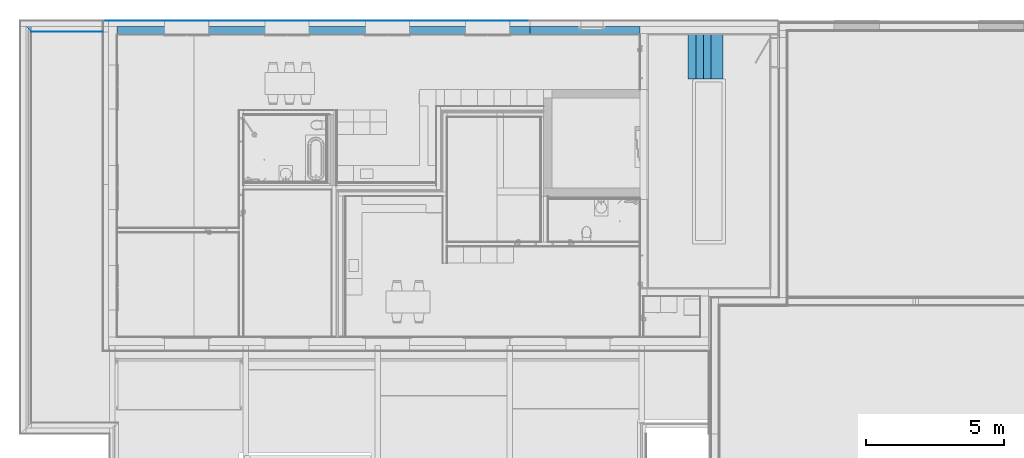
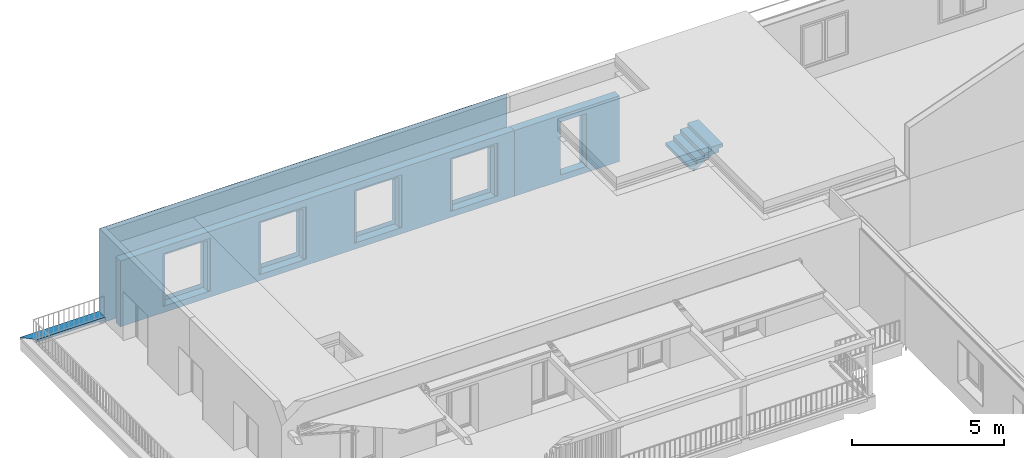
# One storey, part 18 of 36: 6 building element parts, 9 openings, 5 elements without a shape of their own.
"""IFC4 building model written with IfcOpenShell, lengths in millimetres."""

from ifc_helpers import new_model, entity, si_unit, converted_unit, derived_unit, direction, frame, origin_with_axes, place, context, subcontext, project, spatial, polygons, material, type_object, element, aggregate, save


model = new_model("IFC4")

# Units and contexts
model_context = context("Model", 3, precision=0.01, world=origin_with_axes(), true_north=direction((0.0, 1.0)))
body_context = subcontext(model_context, "Body", "Model", "MODEL_VIEW")
ifc_project = project(units=[si_unit("LENGTHUNIT", "METRE", prefix="MILLI"), si_unit("AREAUNIT", "SQUARE_METRE"), si_unit("VOLUMEUNIT", "CUBIC_METRE"), converted_unit("PLANEANGLEUNIT", "DEGREE", entity("IfcPlaneAngleMeasure", 0.0174532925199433), si_unit("PLANEANGLEUNIT", "RADIAN"), dimensions=[0, 0, 0, 0, 0, 0, 0]), converted_unit("TIMEUNIT", "Year", entity("IfcTimeMeasure", 31557600.0), si_unit("TIMEUNIT", "SECOND"), dimensions=[0, 0, 1, 0, 0, 0, 0]), si_unit("MASSUNIT", "GRAM", prefix="KILO"), si_unit("THERMODYNAMICTEMPERATUREUNIT", "DEGREE_CELSIUS"), si_unit("LUMINOUSINTENSITYUNIT", "LUMEN"), si_unit("ENERGYUNIT", "JOULE", prefix="MEGA"), derived_unit("THERMALCONDUCTANCEUNIT", [(si_unit("POWERUNIT", "WATT"), 1), (si_unit("LENGTHUNIT", "METRE"), -1), (si_unit("THERMODYNAMICTEMPERATUREUNIT", "KELVIN"), -1)]), derived_unit("SPECIFICHEATCAPACITYUNIT", [(si_unit("ENERGYUNIT", "JOULE"), 1), (si_unit("MASSUNIT", "GRAM", prefix="KILO"), -1), (si_unit("THERMODYNAMICTEMPERATUREUNIT", "KELVIN"), -1)]), derived_unit("MASSDENSITYUNIT", [(si_unit("MASSUNIT", "GRAM", prefix="KILO"), 1), (si_unit("VOLUMEUNIT", "CUBIC_METRE"), -1)])], contexts=[model_context])

# Site, building, storey
site_placement = place(None, origin_with_axes())
site = spatial("IfcSite", under=ifc_project, at=site_placement, Name="Gelände", CompositionType="ELEMENT")
building_placement = place(site_placement, origin_with_axes())
building = spatial("IfcBuilding", under=site, at=building_placement, Name="Gebäude", CompositionType="ELEMENT")
storey_placement = place(building_placement, frame((0.0, 0.0, 8700.0), z_axis=(0.0, 0.0, 1.0), x_axis=(1.0, 0.0, 0.0)))
storey = spatial("IfcBuildingStorey", under=building, at=storey_placement, Name="Attika", CompositionType="ELEMENT", Elevation=8700.0)

# Wall, opening, building element part
wall_type = type_object("IfcWallType", Name="Aussenwand Typ 06 310", PredefinedType="NOTDEFINED")
wall_1_placement = place(storey_placement, frame((11428.998626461, 37427.59728131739, 0.0), z_axis=(0.0, 0.0, 1.0), x_axis=(1.0, 0.0, 0.0)))
wall_1 = element("IfcWall", 1, at=wall_1_placement, inside=storey, type_object=wall_type, Name="Wand-014", PredefinedType="NOTDEFINED")
opening_1_placement = place(wall_1_placement, frame((2249.998818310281, 0.0, 309.9999481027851), z_axis=(0.0, 0.0, 1.0), x_axis=(1.0, 0.0, 0.0)))
element("IfcOpeningElement", 2, at=opening_1_placement, cuts=wall_1, Name="Fenster-004", context=body_context, identifier="Reference", shape_type="Tessellation", body=[
    polygons([(400.0000000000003, 310.9999999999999, 1959.999999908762), (400.0000000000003, 310.9999999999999, 1961.999999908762), (401.9999999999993, 310.9999999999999, 1961.999999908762), (401.9999999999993, 310.9999999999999, -60.0000000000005), (-401.9999999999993, 310.9999999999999, -60.0000000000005), (-401.9999999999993, 310.9999999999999, 1961.999999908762), (-400.0000000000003, 310.9999999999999, 1961.999999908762), (-400.0000000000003, 310.9999999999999, 1959.999999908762), (400.0000000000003, 310.0000000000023, 1961.999999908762), (400.0000000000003, 460.0000000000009, 1959.999999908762), (400.0000000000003, 460.0000000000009, 2249.999999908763), (400.0000000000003, 310.0000000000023, 2249.999999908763), (-400.0000000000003, 310.0000000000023, 1961.999999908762), (-401.9999999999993, 307.9999999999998, 1961.999999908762), (401.9999999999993, 307.9999999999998, 1961.999999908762), (401.9999999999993, 307.9999999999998, -60.0000000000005), (-401.9999999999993, 307.9999999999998, -60.0000000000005), (-400.0000000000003, 310.0000000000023, 2249.999999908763), (-400.0000000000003, 460.0000000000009, 2249.999999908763), (-400.0000000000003, 460.0000000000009, 1959.999999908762), (-502.0000000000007, 307.9999999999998, -60.0000000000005), (-502.0000000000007, 307.9999999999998, 2061.999999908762), (502.0000000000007, 307.9999999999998, 2061.999999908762), (502.0000000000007, 307.9999999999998, -60.0000000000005), (502.0000000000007, -0.9999999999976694, -60.0000000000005), (-502.0000000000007, -0.9999999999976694, -60.0000000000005), (-502.0000000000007, -0.9999999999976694, 2061.999999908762), (502.0000000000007, -0.9999999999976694, 2061.999999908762)], [[[1, 2, 3, 4, 5, 6, 7, 8]], [[9, 2, 1, 10, 11, 12]], [[13, 7, 6, 14, 15, 3, 2, 9]], [[15, 16, 4, 3]], [[16, 17, 5, 4]], [[17, 14, 6, 5]], [[8, 7, 13, 18, 19, 20]], [[1, 8, 20, 10]], [[20, 19, 11, 10]], [[19, 18, 12, 11]], [[13, 9, 12, 18]], [[16, 15, 14, 17, 21, 22, 23, 24]], [[17, 16, 24, 25, 26, 21]], [[22, 21, 26, 27]], [[23, 22, 27, 28]], [[24, 23, 28, 25]], [[27, 26, 25, 28]]], closed=True),
])
ifc_material_1 = material(Name="Beton bewehrt")
building_element_part_1_placement = place(wall_1_placement, origin_with_axes())
building_element_part_1 = element("IfcBuildingElementPart", 3, at=building_element_part_1_placement, material=ifc_material_1, Name="Beton bewehrt", PredefinedType="NOTDEFINED", context=body_context, shape_type="Tessellation", body=[
    polygons([(2651.998818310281, 307.9999999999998, 249.9999481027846), (2651.998818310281, 307.9999999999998, 2271.999948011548), (2651.998818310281, 310.0000000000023, 2271.999948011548), (2651.998818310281, 310.0000000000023, 249.9999481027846), (1847.998818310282, 307.9999999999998, 2271.999948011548), (2751.998818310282, 307.9999999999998, 249.9999481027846), (2751.998818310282, 307.9999999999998, 2371.999948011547), (1747.998818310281, 307.9999999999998, 2371.999948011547), (1747.998818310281, 307.9999999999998, 249.9999481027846), (1847.998818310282, 307.9999999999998, 249.9999481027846), (1847.998818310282, 310.0000000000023, 2271.999948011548), (0.0, 310.0000000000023, 0.0), (0.0, 310.0000000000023, 2650.0), (3999.998818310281, 310.0000000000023, 2650.0), (3999.998818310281, 310.0000000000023, 0.0), (1847.998818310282, 310.0000000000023, 249.9999481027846), (1747.998818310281, 9.99999999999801, 249.9999481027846), (2751.998818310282, 9.99999999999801, 249.9999481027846), (2751.998818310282, 9.99999999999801, 2371.999948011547), (1747.998818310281, 9.99999999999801, 2371.999948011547), (0.0, 9.99999999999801, 0.0), (0.0, 9.99999999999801, 2650.0), (3999.998818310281, 9.99999999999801, 2650.0), (3999.998818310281, 9.99999999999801, 0.0)], [[[1, 2, 3, 4]], [[5, 2, 1, 6, 7, 8, 9, 10]], [[2, 5, 11, 3]], [[12, 13, 14, 15], [4, 3, 11, 16]], [[10, 1, 4, 16]], [[17, 18, 6, 1, 10, 9]], [[18, 19, 7, 6]], [[19, 20, 8, 7]], [[20, 17, 9, 8]], [[5, 10, 16, 11]], [[13, 12, 21, 22]], [[13, 22, 23, 14]], [[24, 15, 14, 23]], [[21, 12, 15, 24]], [[22, 21, 24, 23], [17, 20, 19, 18]]], closed=True),
])
aggregate(wall_1, [building_element_part_1])

# Curtain wall, openings, building element part
curtain_wall_type = type_object("IfcCurtainWallType", Name="Fassade Typ 01 - Kompaktfassade 210", PredefinedType="NOTDEFINED")
curtain_wall_placement = place(storey_placement, frame((-4071.004181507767, 37947.5972813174, 0.0), z_axis=(0.0, 0.0, 1.0), x_axis=(1.0, 0.0, 0.0)))
curtain_wall = element("IfcCurtainWall", 4, at=curtain_wall_placement, inside=storey, type_object=curtain_wall_type, Name="Wand-014", PredefinedType="NOTDEFINED")
opening_2_placement = place(curtain_wall_placement, frame((6685.999999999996, 0.0, 261.9999480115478), z_axis=(0.0, 0.0, 1.0), x_axis=(1.0, 0.0, 0.0)))
element("IfcOpeningElement", 5, at=opening_2_placement, cuts=curtain_wall, Name="Fenster-004", context=body_context, identifier="Reference", shape_type="Tessellation", body=[
    polygons([(802.0, 0.9999999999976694, 2010.0), (802.0, 0.9999999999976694, 0.0), (-802.0, 0.9999999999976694, 0.0), (-802.0, 0.9999999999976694, 2010.0), (802.0, -210.9999999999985, 2010.0), (802.0, -210.9999999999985, 0.0), (-802.0, -210.9999999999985, 0.0), (-802.0, -210.9999999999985, 2010.0)], [[[1, 2, 3, 4]], [[5, 6, 2, 1]], [[6, 7, 3, 2]], [[7, 8, 4, 3]], [[8, 5, 1, 4]], [[7, 6, 5, 8]]], closed=True),
])
opening_3_placement = place(curtain_wall_placement, frame((10328.0, 0.0, 261.9999480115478), z_axis=(0.0, 0.0, 1.0), x_axis=(1.0, 0.0, 0.0)))
element("IfcOpeningElement", 6, at=opening_3_placement, cuts=curtain_wall, Name="Fenster-004", context=body_context, identifier="Reference", shape_type="Tessellation", body=[
    polygons([(802.0000000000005, 0.9999999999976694, 2010.0), (802.0000000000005, 0.9999999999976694, 0.0), (-802.0000000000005, 0.9999999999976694, 0.0), (-802.0000000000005, 0.9999999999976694, 2010.0), (802.0000000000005, -210.9999999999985, 2010.0), (802.0000000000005, -210.9999999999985, 0.0), (-802.0000000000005, -210.9999999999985, 0.0), (-802.0000000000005, -210.9999999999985, 2010.0)], [[[1, 2, 3, 4]], [[5, 6, 2, 1]], [[6, 7, 3, 2]], [[7, 8, 4, 3]], [[8, 5, 1, 4]], [[7, 6, 5, 8]]], closed=True),
])
opening_4_placement = place(curtain_wall_placement, frame((13969.99999999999, 0.0, 261.9999480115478), z_axis=(0.0, 0.0, 1.0), x_axis=(1.0, 0.0, 0.0)))
element("IfcOpeningElement", 7, at=opening_4_placement, cuts=curtain_wall, Name="Fenster-004", context=body_context, identifier="Reference", shape_type="Tessellation", body=[
    polygons([(801.9999999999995, 0.9999999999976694, 2010.0), (801.9999999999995, 0.9999999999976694, 0.0), (-801.9999999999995, 0.9999999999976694, 0.0), (-801.9999999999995, 0.9999999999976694, 2010.0), (801.9999999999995, -210.9999999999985, 2010.0), (801.9999999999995, -210.9999999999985, 0.0), (-801.9999999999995, -210.9999999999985, 0.0), (-801.9999999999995, -210.9999999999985, 2010.0)], [[[1, 2, 3, 4]], [[5, 6, 2, 1]], [[6, 7, 3, 2]], [[7, 8, 4, 3]], [[8, 5, 1, 4]], [[7, 6, 5, 8]]], closed=True),
])
opening_5_placement = place(curtain_wall_placement, frame((3043.999999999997, 0.0, 261.9999480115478), z_axis=(0.0, 0.0, 1.0), x_axis=(1.0, 0.0, 0.0)))
element("IfcOpeningElement", 8, at=opening_5_placement, cuts=curtain_wall, Name="Fenster-004", context=body_context, identifier="Reference", shape_type="Tessellation", body=[
    polygons([(802.0000000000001, 0.9999999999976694, 2010.0), (802.0000000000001, 0.9999999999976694, 0.0), (-802.0, 0.9999999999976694, 0.0), (-802.0, 0.9999999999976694, 2010.0), (802.0000000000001, -210.9999999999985, 2010.0), (802.0000000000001, -210.9999999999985, 0.0), (-802.0, -210.9999999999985, 0.0), (-802.0, -210.9999999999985, 2010.0)], [[[1, 2, 3, 4]], [[5, 6, 2, 1]], [[6, 7, 3, 2]], [[7, 8, 4, 3]], [[8, 5, 1, 4]], [[7, 6, 5, 8]]], closed=True),
])
ifc_material_2 = material(Name="Zementputz Aussen")
building_element_part_2_placement = place(curtain_wall_placement, origin_with_axes())
building_element_part_2 = element("IfcBuildingElementPart", 9, at=building_element_part_2_placement, material=ifc_material_2, Name="Zementputz Aussen", PredefinedType="NOTDEFINED", context=body_context, shape_type="Tessellation", body=[
    polygons([(10.00000000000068, -9.99999999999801, 3830.999999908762), (10.00000000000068, -9.99999999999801, 0.0), (15500.00280796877, -9.99999999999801, 0.0), (15500.00280796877, -9.99999999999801, 3830.999999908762), (3845.999999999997, -9.99999999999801, 261.9999480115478), (2241.999999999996, -9.99999999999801, 261.9999480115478), (2241.999999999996, -9.99999999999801, 2271.999948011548), (3845.999999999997, -9.99999999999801, 2271.999948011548), (7487.999999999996, -9.99999999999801, 2271.999948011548), (7487.999999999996, -9.99999999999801, 261.9999480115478), (5883.999999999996, -9.99999999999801, 261.9999480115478), (5883.999999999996, -9.99999999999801, 2271.999948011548), (9525.999999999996, -9.99999999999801, 2271.999948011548), (11130.0, -9.99999999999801, 2271.999948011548), (11130.0, -9.99999999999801, 261.9999480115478), (9525.999999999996, -9.99999999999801, 261.9999480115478), (13168.0, -9.99999999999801, 261.9999480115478), (13168.0, -9.99999999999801, 2271.999948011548), (14771.99999999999, -9.99999999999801, 2271.999948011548), (14771.99999999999, -9.99999999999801, 261.9999480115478), (10.00000000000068, 1.42475897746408e-06, 3830.999999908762), (10.00000000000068, 0.0, 0.0), (15500.00280796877, 0.0, 0.0), (15500.00280796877, 0.0, 3830.999999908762), (3845.999999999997, 0.0, 261.9999480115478), (2241.999999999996, 0.0, 261.9999480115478), (2241.999999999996, 0.0, 2271.999948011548), (3845.999999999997, 0.0, 2271.999948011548), (7487.999999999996, 0.0, 2271.999948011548), (7487.999999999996, 0.0, 261.9999480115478), (5883.999999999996, 0.0, 261.9999480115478), (5883.999999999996, 0.0, 2271.999948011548), (11130.0, 1.42475897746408e-06, 2271.999948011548), (9525.999999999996, 1.42475897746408e-06, 2271.999948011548), (11130.0, 1.42475897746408e-06, 261.9999480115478), (9525.999999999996, 1.42475897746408e-06, 261.9999480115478), (13168.0, 0.0, 261.9999480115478), (13168.0, 0.0, 2271.999948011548), (14771.99999999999, 0.0, 2271.999948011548), (14771.99999999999, 0.0, 261.9999480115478)], [[[1, 2, 3, 4], [5, 6, 7, 8], [9, 10, 11, 12], [13, 14, 15, 16], [17, 18, 19, 20]], [[1, 21, 22, 2]], [[3, 2, 22, 23]], [[3, 23, 24, 4]], [[24, 21, 1, 4]], [[5, 25, 26, 6]], [[6, 26, 27, 7]], [[7, 27, 28, 8]], [[8, 28, 25, 5]], [[10, 9, 29, 30]], [[11, 10, 30, 31]], [[12, 11, 31, 32]], [[9, 12, 32, 29]], [[33, 14, 13, 34]], [[35, 15, 14, 33]], [[36, 16, 15, 35]], [[34, 13, 16, 36]], [[37, 38, 18, 17]], [[38, 39, 19, 18]], [[39, 40, 20, 19]], [[40, 37, 17, 20]], [[23, 22, 21, 24], [27, 26, 25, 28], [29, 32, 31, 30], [35, 33, 34, 36], [37, 40, 39, 38]]], closed=True),
])
aggregate(curtain_wall, [building_element_part_2])

# Wall, openings, building element part
wall_2_placement = place(storey_placement, frame((-3861.004181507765, 37737.5972813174, 0.0), z_axis=(0.0, 0.0, 1.0), x_axis=(1.0, 0.0, 0.0)))
wall_2 = element("IfcWall", 10, at=wall_2_placement, inside=storey, type_object=wall_type, Name="Wand-014", PredefinedType="NOTDEFINED")
opening_6_placement = place(wall_2_placement, frame((2833.999999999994, 0.0, 309.9999481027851), z_axis=(0.0, 0.0, 1.0), x_axis=(1.0, 0.0, 0.0)))
element("IfcOpeningElement", 11, at=opening_6_placement, cuts=wall_2, Name="Fenster-004", context=body_context, identifier="Reference", shape_type="Tessellation", body=[
    polygons([(800.0000000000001, 0.9999999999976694, 1959.999999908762), (800.0000000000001, 0.9999999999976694, 1961.999999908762), (802.0000000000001, 0.9999999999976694, 1961.999999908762), (802.0000000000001, 0.9999999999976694, -60.0000000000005), (-802.0, 0.9999999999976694, -60.0000000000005), (-802.0, 0.9999999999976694, 1961.999999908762), (-800.0000000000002, 0.9999999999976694, 1961.999999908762), (-800.0000000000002, 0.9999999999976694, 1959.999999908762), (800.0000000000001, 0.0, 1961.999999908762), (800.0000000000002, 149.9999999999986, 1959.999999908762), (800.0000000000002, 149.9999999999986, 2249.999999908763), (800.0000000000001, 0.0, 2249.999999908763), (-800.0000000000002, 0.0, 1961.999999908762), (-802.0, -250.0, 1961.999999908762), (802.0000000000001, -250.0, 1961.999999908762), (802.0000000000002, -250.0, -60.0000000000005), (-802.0, -250.0, -60.0000000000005), (-800.0000000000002, 0.0, 2249.999999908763), (-800.0, 149.9999999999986, 2249.999999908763), (-800.0, 149.9999999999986, 1959.999999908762), (-902.0000000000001, -250.0, -60.0000000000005), (-902.0000000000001, -250.0, 2061.999999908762), (902.0000000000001, -250.0, 2061.999999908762), (902.0000000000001, -250.0, -60.0000000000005), (902.0000000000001, -310.9999999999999, -60.0000000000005), (-902.0000000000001, -310.9999999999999, -60.0000000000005), (-902.0000000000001, -310.9999999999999, 2061.999999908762), (902.0000000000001, -310.9999999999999, 2061.999999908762)], [[[1, 2, 3, 4, 5, 6, 7, 8]], [[9, 2, 1, 10, 11, 12]], [[13, 7, 6, 14, 15, 3, 2, 9]], [[15, 16, 4, 3]], [[16, 17, 5, 4]], [[17, 14, 6, 5]], [[8, 7, 13, 18, 19, 20]], [[1, 8, 20, 10]], [[20, 19, 11, 10]], [[19, 18, 12, 11]], [[13, 9, 12, 18]], [[16, 15, 14, 17, 21, 22, 23, 24]], [[17, 16, 24, 25, 26, 21]], [[22, 21, 26, 27]], [[23, 22, 27, 28]], [[24, 23, 28, 25]], [[27, 26, 25, 28]]], closed=True),
])
opening_7_placement = place(wall_2_placement, frame((6475.999999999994, 0.0, 309.9999481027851), z_axis=(0.0, 0.0, 1.0), x_axis=(1.0, 0.0, 0.0)))
element("IfcOpeningElement", 12, at=opening_7_placement, cuts=wall_2, Name="Fenster-004", context=body_context, identifier="Reference", shape_type="Tessellation", body=[
    polygons([(800.0000000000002, 0.9999999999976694, 1959.999999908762), (800.0000000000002, 0.9999999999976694, 1961.999999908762), (802.0, 0.9999999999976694, 1961.999999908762), (802.0, 0.9999999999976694, -60.0000000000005), (-802.0, 0.9999999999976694, -60.0000000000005), (-802.0, 0.9999999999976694, 1961.999999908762), (-800.0, 0.9999999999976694, 1961.999999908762), (-800.0, 0.9999999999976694, 1959.999999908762), (800.0000000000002, 0.0, 1961.999999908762), (800.0000000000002, 149.9999999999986, 1959.999999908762), (800.0000000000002, 149.9999999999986, 2249.999999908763), (800.0000000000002, 0.0, 2249.999999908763), (-800.0, 0.0, 1961.999999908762), (-802.0, -250.0, 1961.999999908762), (802.0, -250.0, 1961.999999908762), (802.0, -250.0, -60.0000000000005), (-802.0, -250.0, -60.0000000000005), (-800.0, 0.0, 2249.999999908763), (-800.0, 149.9999999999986, 2249.999999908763), (-800.0, 149.9999999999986, 1959.999999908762), (-902.0000000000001, -250.0, -60.0000000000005), (-902.0000000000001, -250.0, 2061.999999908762), (902.0000000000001, -250.0, 2061.999999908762), (902.0000000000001, -250.0, -60.0000000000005), (902.0000000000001, -310.9999999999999, -60.0000000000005), (-902.0000000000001, -310.9999999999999, -60.0000000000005), (-902.0000000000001, -310.9999999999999, 2061.999999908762), (902.0000000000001, -310.9999999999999, 2061.999999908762)], [[[1, 2, 3, 4, 5, 6, 7, 8]], [[9, 2, 1, 10, 11, 12]], [[13, 7, 6, 14, 15, 3, 2, 9]], [[15, 16, 4, 3]], [[16, 17, 5, 4]], [[17, 14, 6, 5]], [[8, 7, 13, 18, 19, 20]], [[1, 8, 20, 10]], [[20, 19, 11, 10]], [[19, 18, 12, 11]], [[13, 9, 12, 18]], [[16, 15, 14, 17, 21, 22, 23, 24]], [[17, 16, 24, 25, 26, 21]], [[22, 21, 26, 27]], [[23, 22, 27, 28]], [[24, 23, 28, 25]], [[27, 26, 25, 28]]], closed=True),
])
opening_8_placement = place(wall_2_placement, frame((10117.99999999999, 0.0, 309.9999481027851), z_axis=(0.0, 0.0, 1.0), x_axis=(1.0, 0.0, 0.0)))
element("IfcOpeningElement", 13, at=opening_8_placement, cuts=wall_2, Name="Fenster-004", context=body_context, identifier="Reference", shape_type="Tessellation", body=[
    polygons([(799.9999999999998, 0.9999999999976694, 1959.999999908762), (799.9999999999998, 0.9999999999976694, 1961.999999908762), (802.0000000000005, 0.9999999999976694, 1961.999999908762), (802.0000000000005, 0.9999999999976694, -60.0000000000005), (-802.0000000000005, 0.9999999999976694, -60.0000000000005), (-802.0000000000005, 0.9999999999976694, 1961.999999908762), (-800.0000000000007, 0.9999999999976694, 1961.999999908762), (-800.0000000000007, 0.9999999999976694, 1959.999999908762), (799.9999999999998, 0.0, 1961.999999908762), (800.0000000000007, 149.9999999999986, 1959.999999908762), (800.0000000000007, 149.9999999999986, 2249.999999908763), (799.9999999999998, 0.0, 2249.999999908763), (-800.0000000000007, 0.0, 1961.999999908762), (-802.0000000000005, -250.0, 1961.999999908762), (802.0000000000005, -250.0, 1961.999999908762), (802.0000000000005, -250.0, -60.0000000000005), (-802.0000000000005, -250.0, -60.0000000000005), (-800.0000000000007, 0.0, 2249.999999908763), (-799.9999999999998, 149.9999999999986, 2249.999999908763), (-799.9999999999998, 149.9999999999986, 1959.999999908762), (-902.0000000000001, -250.0, -60.0000000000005), (-902.0000000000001, -250.0, 2061.999999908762), (902.0000000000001, -250.0, 2061.999999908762), (902.0000000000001, -250.0, -60.0000000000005), (902.0000000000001, -310.9999999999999, -60.0000000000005), (-902.0000000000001, -310.9999999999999, -60.0000000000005), (-902.0000000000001, -310.9999999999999, 2061.999999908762), (902.0000000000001, -310.9999999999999, 2061.999999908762)], [[[1, 2, 3, 4, 5, 6, 7, 8]], [[9, 2, 1, 10, 11, 12]], [[13, 7, 6, 14, 15, 3, 2, 9]], [[15, 16, 4, 3]], [[16, 17, 5, 4]], [[17, 14, 6, 5]], [[8, 7, 13, 18, 19, 20]], [[1, 8, 20, 10]], [[20, 19, 11, 10]], [[19, 18, 12, 11]], [[13, 9, 12, 18]], [[16, 15, 14, 17, 21, 22, 23, 24]], [[17, 16, 24, 25, 26, 21]], [[22, 21, 26, 27]], [[23, 22, 27, 28]], [[24, 23, 28, 25]], [[27, 26, 25, 28]]], closed=True),
])
opening_9_placement = place(wall_2_placement, frame((13759.99999999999, 0.0, 309.9999481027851), z_axis=(0.0, 0.0, 1.0), x_axis=(1.0, 0.0, 0.0)))
element("IfcOpeningElement", 14, at=opening_9_placement, cuts=wall_2, Name="Fenster-004", context=body_context, identifier="Reference", shape_type="Tessellation", body=[
    polygons([(800.0000000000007, 0.9999999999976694, 1959.999999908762), (800.0000000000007, 0.9999999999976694, 1961.999999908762), (801.9999999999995, 0.9999999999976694, 1961.999999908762), (801.9999999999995, 0.9999999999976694, -60.0000000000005), (-801.9999999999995, 0.9999999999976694, -60.0000000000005), (-801.9999999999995, 0.9999999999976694, 1961.999999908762), (-799.999999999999, 0.9999999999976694, 1961.999999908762), (-799.999999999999, 0.9999999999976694, 1959.999999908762), (800.0000000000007, 0.0, 1961.999999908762), (800.0000000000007, 149.9999999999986, 1959.999999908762), (800.0000000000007, 149.9999999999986, 2249.999999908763), (800.0000000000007, 0.0, 2249.999999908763), (-799.999999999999, 0.0, 1961.999999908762), (-801.9999999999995, -250.0, 1961.999999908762), (801.9999999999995, -250.0, 1961.999999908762), (801.9999999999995, -250.0, -60.0000000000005), (-801.9999999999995, -250.0, -60.0000000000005), (-799.999999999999, 0.0, 2249.999999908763), (-799.999999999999, 149.9999999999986, 2249.999999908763), (-799.999999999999, 149.9999999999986, 1959.999999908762), (-902.000000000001, -250.0, -60.0000000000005), (-902.000000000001, -250.0, 2061.999999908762), (902.000000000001, -250.0, 2061.999999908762), (902.000000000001, -250.0, -60.0000000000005), (902.000000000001, -310.9999999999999, -60.0000000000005), (-902.000000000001, -310.9999999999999, -60.0000000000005), (-902.000000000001, -310.9999999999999, 2061.999999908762), (902.000000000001, -310.9999999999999, 2061.999999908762)], [[[1, 2, 3, 4, 5, 6, 7, 8]], [[9, 2, 1, 10, 11, 12]], [[13, 7, 6, 14, 15, 3, 2, 9]], [[15, 16, 4, 3]], [[16, 17, 5, 4]], [[17, 14, 6, 5]], [[8, 7, 13, 18, 19, 20]], [[1, 8, 20, 10]], [[20, 19, 11, 10]], [[19, 18, 12, 11]], [[13, 9, 12, 18]], [[16, 15, 14, 17, 21, 22, 23, 24]], [[17, 16, 24, 25, 26, 21]], [[22, 21, 26, 27]], [[23, 22, 27, 28]], [[24, 23, 28, 25]], [[27, 26, 25, 28]]], closed=True),
])
building_element_part_3_placement = place(wall_2_placement, origin_with_axes())
building_element_part_3 = element("IfcBuildingElementPart", 15, at=building_element_part_3_placement, material=ifc_material_1, Name="Beton bewehrt", PredefinedType="NOTDEFINED", context=body_context, shape_type="Tessellation", body=[
    polygons([(14561.99999999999, -250.0, 249.9999481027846), (14561.99999999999, -250.0, 2271.999948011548), (14561.99999999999, 0.0, 2271.999948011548), (14561.99999999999, 0.0, 249.9999481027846), (12957.99999999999, -250.0, 2271.999948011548), (14661.99999999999, -250.0, 249.9999481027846), (14661.99999999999, -250.0, 2371.999948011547), (12857.99999999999, -250.0, 2371.999948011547), (12857.99999999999, -250.0, 249.9999481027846), (12957.99999999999, -250.0, 249.9999481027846), (12957.99999999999, 0.0, 2271.999948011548), (15290.00280796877, 0.0, 2650.0), (15290.00280796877, 0.0, 0.0), (300.0000000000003, 0.0, 0.0), (300.0000000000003, 0.0, 2650.0), (2031.999999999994, 0.0, 2271.999948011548), (2031.999999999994, 0.0, 249.9999481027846), (3635.999999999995, 0.0, 249.9999481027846), (3635.999999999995, 0.0, 2271.999948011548), (7277.999999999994, 0.0, 249.9999481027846), (7277.999999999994, 0.0, 2271.999948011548), (5673.999999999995, 0.0, 2271.999948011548), (5673.999999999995, 0.0, 249.9999481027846), (9315.999999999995, 0.0, 2271.999948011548), (9315.999999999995, 0.0, 249.9999481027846), (10920.0, 0.0, 249.9999481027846), (10920.0, 0.0, 2271.999948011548), (12957.99999999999, 0.0, 249.9999481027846), (12857.99999999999, -299.9999999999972, 249.9999481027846), (14661.99999999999, -299.9999999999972, 249.9999481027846), (14661.99999999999, -299.9999999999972, 2371.999948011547), (12857.99999999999, -299.9999999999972, 2371.999948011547), (15290.00280796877, -299.9999999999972, 2650.0), (15290.00280796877, -299.9999999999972, 0.0), (299.9999999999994, -299.9999999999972, 0.0), (299.9999999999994, -299.9999999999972, 2650.0), (2031.999999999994, -250.0, 2271.999948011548), (2031.999999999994, -250.0, 249.9999481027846), (3635.999999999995, -250.0, 249.9999481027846), (3635.999999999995, -250.0, 2271.999948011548), (7277.999999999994, -250.0, 249.9999481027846), (7277.999999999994, -250.0, 2271.999948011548), (5673.999999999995, -250.0, 2271.999948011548), (5673.999999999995, -250.0, 249.9999481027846), (9315.999999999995, -250.0, 2271.999948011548), (9315.999999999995, -250.0, 249.9999481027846), (10920.0, -250.0, 249.9999481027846), (10920.0, -250.0, 2271.999948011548), (3735.999999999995, -299.9999999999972, 2371.999948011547), (3735.999999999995, -299.9999999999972, 249.9999481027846), (1931.999999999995, -299.9999999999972, 249.9999481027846), (1931.999999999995, -299.9999999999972, 2371.999948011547), (5573.999999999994, -299.9999999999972, 249.9999481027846), (5573.999999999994, -299.9999999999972, 2371.999948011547), (7377.999999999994, -299.9999999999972, 2371.999948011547), (7377.999999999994, -299.9999999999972, 249.9999481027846), (11020.0, -299.9999999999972, 2371.999948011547), (11020.0, -299.9999999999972, 249.9999481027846), (9215.999999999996, -299.9999999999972, 249.9999481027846), (9215.999999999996, -299.9999999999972, 2371.999948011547), (1931.999999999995, -250.0, 249.9999481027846), (3735.999999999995, -250.0, 249.9999481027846), (3735.999999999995, -250.0, 2371.999948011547), (1931.999999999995, -250.0, 2371.999948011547), (7377.999999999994, -250.0, 2371.999948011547), (5573.999999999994, -250.0, 2371.999948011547), (5573.999999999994, -250.0, 249.9999481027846), (7377.999999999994, -250.0, 249.9999481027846), (11020.0, -250.0, 249.9999481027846), (11020.0, -250.0, 2371.999948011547), (9215.999999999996, -250.0, 2371.999948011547), (9215.999999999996, -250.0, 249.9999481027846)], [[[1, 2, 3, 4]], [[5, 2, 1, 6, 7, 8, 9, 10]], [[2, 5, 11, 3]], [[12, 13, 14, 15], [16, 17, 18, 19], [20, 21, 22, 23], [24, 25, 26, 27], [4, 3, 11, 28]], [[10, 1, 4, 28]], [[29, 30, 6, 1, 10, 9]], [[30, 31, 7, 6]], [[31, 32, 8, 7]], [[32, 29, 9, 8]], [[5, 10, 28, 11]], [[33, 34, 13, 12]], [[13, 34, 35, 14]], [[36, 15, 14, 35]], [[33, 12, 15, 36]], [[17, 16, 37, 38]], [[18, 17, 38, 39]], [[19, 18, 39, 40]], [[16, 19, 40, 37]], [[41, 42, 21, 20]], [[42, 43, 22, 21]], [[43, 44, 23, 22]], [[44, 41, 20, 23]], [[25, 24, 45, 46]], [[26, 25, 46, 47]], [[27, 26, 47, 48]], [[24, 27, 48, 45]], [[34, 33, 36, 35], [49, 50, 51, 52], [53, 54, 55, 56], [57, 58, 59, 60], [29, 32, 31, 30]], [[61, 38, 37, 40, 39, 62, 63, 64]], [[51, 50, 62, 39, 38, 61]], [[65, 66, 67, 44, 43, 42, 41, 68]], [[53, 56, 68, 41, 44, 67]], [[47, 69, 70, 71, 72, 46, 45, 48]], [[59, 58, 69, 47, 46, 72]], [[63, 62, 50, 49]], [[61, 64, 52, 51]], [[64, 63, 49, 52]], [[54, 53, 67, 66]], [[55, 54, 66, 65]], [[56, 55, 65, 68]], [[70, 69, 58, 57]], [[72, 71, 60, 59]], [[71, 70, 57, 60]]], closed=True),
])
aggregate(wall_2, [building_element_part_3])

# Stair, building element part
stair_type = type_object("IfcStairType", Name="Treppentyp", PredefinedType="NOTDEFINED")
stair_placement = place(storey_placement, frame((17178.99744477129, 37437.59728330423, 150.0000000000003), z_axis=(0.0, 0.0, 1.0), x_axis=(-1.0, 0.0, 0.0)))
stair = element("IfcStair", 16, at=stair_placement, inside=storey, type_object=stair_type, Name="Treppe-001", PredefinedType="NOTDEFINED")
building_element_part_4_placement = place(stair_placement, origin_with_axes())
building_element_part_4 = element("IfcBuildingElementPart", 17, at=building_element_part_4_placement, PredefinedType="NOTDEFINED", context=body_context, shape_type="Tessellation", body=[
    polygons([(-1106.429394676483, 1600.0, 359.9999999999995), (-1256.429394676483, 1600.0, 359.9999999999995), (-1256.429394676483, 1600.0, 499.9999999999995), (-829.822046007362, 1600.0, 499.9999999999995), (-829.822046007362, 1600.0, 346.6666666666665), (-553.2146973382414, 1600.0, 346.6666666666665), (-553.2146973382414, 1600.0, 173.3333333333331), (-276.6073486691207, 1600.0, 173.3333333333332), (-276.6073486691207, 1600.0, 0.0), (0.0, 1600.0, 0.0), (0.0, 1600.0, -120.0), (-150.0, 1600.0, -120.0), (-150.0, 1600.0, -244.5537770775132), (-184.4048991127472, 1600.0, -222.9942781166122), (-276.6073486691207, 1600.0, -165.2165003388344), (-368.8097982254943, 1600.0, -107.4387225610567), (-461.0122477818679, 1600.0, -49.66094478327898), (-553.2146973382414, 1600.0, 8.116832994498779), (-645.4171468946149, 1600.0, 65.89461077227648), (-737.6195964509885, 1600.0, 123.6723885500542), (-829.822046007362, 1600.0, 181.450166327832), (-859.4240862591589, 1600.0, 199.9999999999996), (-1106.429394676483, 1600.0, 199.9999999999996), (-1106.429394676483, 0.0, 359.9999999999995), (-1256.429394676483, 0.0, 359.9999999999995), (-1256.429394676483, 0.0, 499.9999999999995), (-829.822046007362, 0.0, 499.9999999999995), (-829.822046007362, 0.0, 346.6666666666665), (-553.2146973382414, 0.0, 346.6666666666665), (-553.2146973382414, 0.0, 173.3333333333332), (-276.6073486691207, 0.0, 173.3333333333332), (-276.6073486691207, 0.0, 0.0), (0.0, 0.0, 0.0), (0.0, 0.0, -120.0), (-150.0, 0.0, -120.0), (-150.0, 0.0, -244.5537770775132), (-184.4048991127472, 0.0, -222.9942781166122), (-276.6073486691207, 0.0, -165.2165003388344), (-368.8097982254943, 0.0, -107.4387225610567), (-461.0122477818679, 0.0, -49.66094478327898), (-553.2146973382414, 0.0, 8.116832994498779), (-645.4171468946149, 0.0, 65.89461077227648), (-737.6195964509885, 0.0, 123.6723885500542), (-829.822046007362, 0.0, 181.450166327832), (-859.4240862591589, 0.0, 199.9999999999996), (-1106.429394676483, 0.0, 199.9999999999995)], [[[1, 2, 3, 4, 5, 6, 7, 8, 9, 10, 11, 12, 13, 14, 15, 16, 17, 18, 19, 20, 21, 22, 23]], [[2, 1, 24, 25]], [[2, 25, 26, 3]], [[3, 26, 27, 4]], [[27, 28, 5, 4]], [[29, 6, 5, 28]], [[6, 29, 30, 7]], [[31, 8, 7, 30]], [[8, 31, 32, 9]], [[33, 10, 9, 32]], [[34, 11, 10, 33]], [[12, 11, 34, 35]], [[13, 12, 35, 36]], [[13, 36, 37, 14]], [[38, 15, 14, 37]], [[39, 16, 15, 38]], [[40, 17, 16, 39]], [[41, 18, 17, 40]], [[42, 19, 18, 41]], [[43, 20, 19, 42]], [[44, 21, 20, 43]], [[22, 21, 44, 45]], [[46, 23, 22, 45]], [[1, 23, 46, 24]], [[24, 46, 45, 44, 43, 42, 41, 40, 39, 38, 37, 36, 35, 34, 33, 32, 31, 30, 29, 28, 27, 26, 25]]], closed=True),
])
aggregate(stair, [building_element_part_4])

# Covering, building element parts
covering_type = type_object("IfcCoveringType", Name="Brüstungsabdeckung 05 405 x 100", PredefinedType="NOTDEFINED")
covering_placement = place(storey_placement, frame((-6861.004181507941, 37737.5972813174, 500.0), z_axis=(0.0, 0.0, 1.0), x_axis=(0.0, -1.0, 0.0)))
covering = element("IfcCovering", 18, at=covering_placement, inside=storey, type_object=covering_type, Name="Unterzug-027", PredefinedType="NOTDEFINED")
ifc_material_3 = material(Name="Stahl")
building_element_part_5_placement = place(covering_placement, origin_with_axes())
building_element_part_5 = element("IfcBuildingElementPart", 19, at=building_element_part_5_placement, material=ifc_material_3, Name="Stahl", PredefinedType="NOTDEFINED", context=body_context, shape_type="Tessellation", body=[
    polygons([(-217.7000901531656, 2790.000000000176, 2.52675749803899), (-217.7001324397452, 2790.000000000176, -97.47324404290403), (-217.7001324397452, -217.7001324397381, -97.47324404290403), (-217.7000901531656, -217.7000901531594, 2.52675749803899), (184.9999986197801, 2790.000000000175, 2.52675749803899), (184.9999986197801, 2790.000000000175, 1.533122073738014e-06), (-215.00000150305, 2790.000000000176, 1.533122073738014e-06), (-215.0000860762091, 2790.000000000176, -97.47324404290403), (-215.0000860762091, -215.0000860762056, -97.47324404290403), (-215.0000015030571, -215.0000015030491, 1.533122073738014e-06), (184.9999986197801, 184.9999986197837, 1.533122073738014e-06), (184.9999986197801, 184.9999986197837, 2.52675749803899)], [[[1, 2, 3, 4]], [[1, 5, 6, 7, 8, 2]], [[2, 8, 9, 3]], [[4, 3, 9, 10, 11, 12]], [[5, 1, 4, 12]], [[6, 5, 12, 11]], [[7, 6, 11, 10]], [[8, 7, 10, 9]]], closed=True),
])
building_element_part_6_placement = place(covering_placement, origin_with_axes())
building_element_part_6 = element("IfcBuildingElementPart", 20, at=building_element_part_6_placement, material=ifc_material_3, Name="Stahl", PredefinedType="NOTDEFINED", context=body_context, shape_type="Tessellation", body=[
    polygons([(185.0000002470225, 2790.000000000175, -5.935394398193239e-07), (184.9999138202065, 2790.000000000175, -97.47324404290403), (184.9999138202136, 184.9999138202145, -97.47324404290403), (185.0000002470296, 185.0000002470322, -5.935394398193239e-07), (185.0000002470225, 2790.000000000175, 2.526755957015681), (187.7000872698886, 2790.000000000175, 2.526755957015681), (187.6999606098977, 2790.000000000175, -97.47324404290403), (187.6999606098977, 187.699960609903, -97.47324404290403), (187.7000872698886, 187.700087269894, 2.526755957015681), (185.0000002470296, 185.0000002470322, 2.526755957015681)], [[[1, 2, 3, 4]], [[1, 5, 6, 7, 2]], [[2, 7, 8, 3]], [[4, 3, 8, 9, 10]], [[5, 1, 4, 10]], [[6, 5, 10, 9]], [[7, 6, 9, 8]]], closed=True),
])
aggregate(covering, [building_element_part_5, building_element_part_6])

save(model, "model.ifc")
